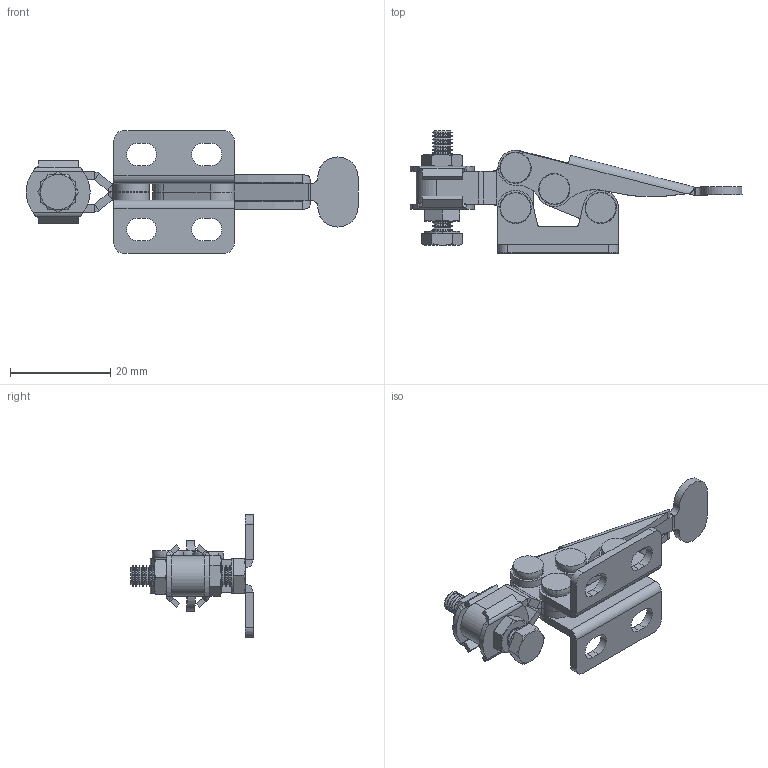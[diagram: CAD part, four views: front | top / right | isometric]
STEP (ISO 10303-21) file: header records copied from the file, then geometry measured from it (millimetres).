
FILE_DESCRIPTION (( 'STEP AP214' ), '1' );
FILE_NAME ('ISK-040.STEP', '2015-06-29T10:02:05', ( '' ), ( '' ), 'SwSTEP 2.0', 'SolidWorks 2015', '' );
FILE_SCHEMA (( 'AUTOMOTIVE_DESIGN' ));
Length unit declared in the file: millimetre
Products named in the file (9): ISK-040; flat head rivets gb_GB_CONNECTING_PIECE_RIVET_FHRS 3X7; hexagon nut_3_jis_JIS B 1181 Hexagon nut - Class 3 Finished M4 --N; continuous thread hexagon head bolt_a_jis_JIS B 1180 Continuous thread hexagon head bolt A M4 x 20 --S; Washer_D4-8; Link; Handle; Arm; Base
Assembly tree (14 placements, depth 2):
  ISK-040
    Base
    Arm
    Handle
    Link  x2
    Washer_D4-8  x2
    continuous thread hexagon head bolt_a_jis_JIS B 1180 Continuous thread hexagon head bolt A M4 x 20 --S
    hexagon nut_3_jis_JIS B 1181 Hexagon nut - Class 3 Finished M4 --N  x2
    flat head rivets gb_GB_CONNECTING_PIECE_RIVET_FHRS 3X7  x4
Bounding box: 66.22 x 24.36 x 24.5 mm (x, y, z)
Volume: 4188.2 mm3; surface area: 7126.7 mm2
Topology: 15 solids, 15 shells, 539 faces, 1316 edges, 804 vertices
Faces by surface type: cylinder 196, plane 161, cone 152, bspline 12, torus 10, sphere 8
Entity records: 13904 total; most frequent: CARTESIAN_POINT 2635, DIRECTION 2455, ORIENTED_EDGE 2198, EDGE_CURVE 1099, AXIS2_PLACEMENT_3D 976, VERTEX_POINT 674, CIRCLE 522, LINE 503
